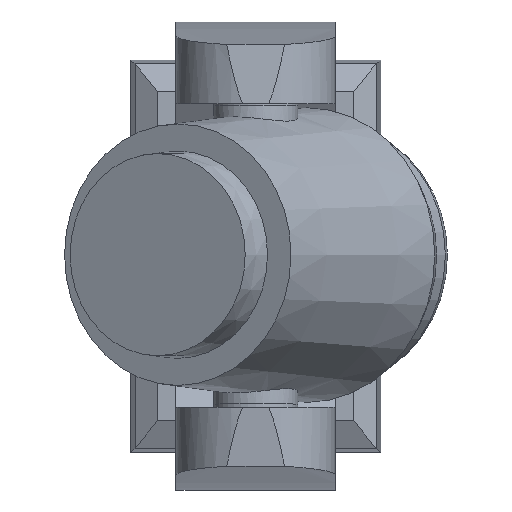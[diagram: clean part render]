
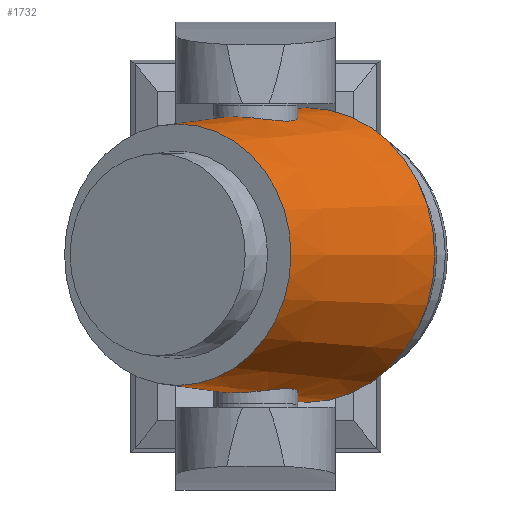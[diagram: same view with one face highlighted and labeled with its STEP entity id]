
A CAD part, top view. The second image highlights one B-rep face of the part: STEP entity #1732.
In plain terms, the highlighted conical face has half-angle 3.64 degrees and reference radius 77.163 mm.
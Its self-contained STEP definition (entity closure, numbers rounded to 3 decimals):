
#20=CONICAL_SURFACE('',#1938,77.163,0.064);
#34=B_SPLINE_CURVE_WITH_KNOTS('',3,(#2789,#2790,#2791,#2792,#2793,#2794,
#2795,#2796,#2797,#2798,#2799,#2800,#2801,#2802,#2803,#2804,#2805,#2806,
#2807,#2808,#2809,#2810,#2811,#2812,#2813,#2814,#2815,#2816,#2817,#2818,
#2819,#2820,#2821,#2822,#2823,#2824,#2825,#2826,#2827,#2828,#2829,#2830,
#2831,#2832,#2833),.UNSPECIFIED.,.T.,.F.,(1,1,1,1,1,1,1,1,1,1,1,1,1,1,1,
1,1,1,1,1,1,1,1,1,1,1,1,1,1,1,1,1,1,1,1,1,1,1,1,1,1,1,1,1,1,1,1,1,1),(-0.015,
-0.01,-0.005,0.,0.005,0.007,
0.01,0.015,0.02,0.025,
0.027,0.03,0.032,0.034,
0.039,0.044,0.049,0.052,
0.054,0.057,0.059,0.064,
0.069,0.074,0.076,0.079,
0.084,0.089,0.091,0.093,
0.098,0.103,0.106,0.108,
0.113,0.118,0.123,0.128,
0.133,0.135,0.138,0.14,
0.143,0.148,0.152,0.157,
0.162,0.165,0.167),.UNSPECIFIED.);
#35=B_SPLINE_CURVE_WITH_KNOTS('',3,(#2835,#2836,#2837,#2838,#2839,#2840,
#2841,#2842,#2843,#2844,#2845,#2846,#2847,#2848,#2849,#2850,#2851,#2852,
#2853,#2854,#2855,#2856,#2857,#2858,#2859,#2860,#2861,#2862,#2863,#2864,
#2865,#2866,#2867,#2868,#2869,#2870,#2871,#2872,#2873,#2874,#2875,#2876,
#2877,#2878,#2879),.UNSPECIFIED.,.T.,.F.,(1,1,1,1,1,1,1,1,1,1,1,1,1,1,1,
1,1,1,1,1,1,1,1,1,1,1,1,1,1,1,1,1,1,1,1,1,1,1,1,1,1,1,1,1,1,1,1,1,1),(-0.015,
-0.01,-0.005,0.,0.005,
0.007,0.01,0.015,0.02,
0.025,0.027,0.03,0.032,
0.034,0.039,0.044,0.049,
0.052,0.054,0.057,0.059,
0.064,0.069,0.074,0.079,
0.081,0.084,0.089,0.093,
0.098,0.101,0.103,0.106,
0.108,0.113,0.118,0.123,
0.128,0.133,0.135,0.138,
0.14,0.143,0.148,0.152,
0.157,0.162,0.165,0.167),
 .UNSPECIFIED.);
#128=CIRCLE('',#1937,77.163);
#129=CIRCLE('',#1939,86.891);
#342=ORIENTED_EDGE('',*,*,#696,.T.);
#343=ORIENTED_EDGE('',*,*,#697,.T.);
#344=ORIENTED_EDGE('',*,*,#698,.F.);
#345=ORIENTED_EDGE('',*,*,#695,.T.);
#695=EDGE_CURVE('',#892,#892,#128,.T.);
#696=EDGE_CURVE('',#893,#893,#34,.T.);
#697=EDGE_CURVE('',#894,#894,#35,.T.);
#698=EDGE_CURVE('',#895,#895,#129,.T.);
#892=VERTEX_POINT('',#2787);
#893=VERTEX_POINT('',#2834);
#894=VERTEX_POINT('',#2880);
#895=VERTEX_POINT('',#2882);
#1370=EDGE_LOOP('',(#342));
#1371=EDGE_LOOP('',(#343));
#1372=EDGE_LOOP('',(#344));
#1373=EDGE_LOOP('',(#345));
#1522=FACE_BOUND('',#1370,.T.);
#1523=FACE_BOUND('',#1371,.T.);
#1524=FACE_BOUND('',#1372,.T.);
#1525=FACE_BOUND('',#1373,.T.);
#1732=ADVANCED_FACE('',(#1522,#1523,#1524,#1525),#20,.T.);
#1937=AXIS2_PLACEMENT_3D('',#2786,#2253,#2254);
#1938=AXIS2_PLACEMENT_3D('',#2788,#2255,#2256);
#1939=AXIS2_PLACEMENT_3D('',#2881,#2257,#2258);
#2253=DIRECTION('',(0.,0.,-1.));
#2254=DIRECTION('',(-1.,0.,0.));
#2255=DIRECTION('',(0.,0.,-1.));
#2256=DIRECTION('',(-1.,0.,0.));
#2257=DIRECTION('',(0.,0.,-1.));
#2258=DIRECTION('',(-1.,0.,0.));
#2786=CARTESIAN_POINT('',(0.,0.,142.942));
#2787=CARTESIAN_POINT('',(-77.163,0.,142.942));
#2788=CARTESIAN_POINT('',(0.,0.,142.942));
#2789=CARTESIAN_POINT('',(-14.79,-83.034,30.646));
#2790=CARTESIAN_POINT('',(-18.433,-82.081,33.88));
#2791=CARTESIAN_POINT('',(-20.893,-81.262,37.107));
#2792=CARTESIAN_POINT('',(-22.458,-80.652,39.926));
#2793=CARTESIAN_POINT('',(-23.763,-80.078,42.94));
#2794=CARTESIAN_POINT('',(-24.815,-79.495,46.845));
#2795=CARTESIAN_POINT('',(-25.149,-79.056,51.831));
#2796=CARTESIAN_POINT('',(-24.615,-78.955,55.888));
#2797=CARTESIAN_POINT('',(-23.698,-79.022,59.093));
#2798=CARTESIAN_POINT('',(-22.788,-79.139,61.378));
#2799=CARTESIAN_POINT('',(-21.663,-79.312,63.562));
#2800=CARTESIAN_POINT('',(-19.856,-79.607,66.346));
#2801=CARTESIAN_POINT('',(-17.159,-80.051,69.403));
#2802=CARTESIAN_POINT('',(-13.199,-80.613,72.421));
#2803=CARTESIAN_POINT('',(-9.539,-81.002,74.212));
#2804=CARTESIAN_POINT('',(-6.369,-81.235,75.218));
#2805=CARTESIAN_POINT('',(-3.963,-81.355,75.724));
#2806=CARTESIAN_POINT('',(-1.523,-81.421,75.995));
#2807=CARTESIAN_POINT('',(1.806,-81.43,76.031));
#2808=CARTESIAN_POINT('',(5.871,-81.292,75.469));
#2809=CARTESIAN_POINT('',(10.588,-80.912,73.826));
#2810=CARTESIAN_POINT('',(14.1,-80.485,71.759));
#2811=CARTESIAN_POINT('',(16.678,-80.114,69.678));
#2812=CARTESIAN_POINT('',(19.001,-79.751,67.39));
#2813=CARTESIAN_POINT('',(21.487,-79.335,64.096));
#2814=CARTESIAN_POINT('',(23.274,-79.064,60.381));
#2815=CARTESIAN_POINT('',(24.25,-78.977,57.244));
#2816=CARTESIAN_POINT('',(24.918,-78.986,53.978));
#2817=CARTESIAN_POINT('',(25.138,-79.189,49.896));
#2818=CARTESIAN_POINT('',(24.544,-79.651,45.782));
#2819=CARTESIAN_POINT('',(23.617,-80.136,42.68));
#2820=CARTESIAN_POINT('',(22.378,-80.695,39.647));
#2821=CARTESIAN_POINT('',(20.321,-81.479,36.169));
#2822=CARTESIAN_POINT('',(17.058,-82.47,32.511));
#2823=CARTESIAN_POINT('',(13.208,-83.371,29.587));
#2824=CARTESIAN_POINT('',(8.753,-84.102,27.411));
#2825=CARTESIAN_POINT('',(4.815,-84.47,26.371));
#2826=CARTESIAN_POINT('',(1.501,-84.602,26.004));
#2827=CARTESIAN_POINT('',(-0.959,-84.611,25.979));
#2828=CARTESIAN_POINT('',(-3.408,-84.534,26.192));
#2829=CARTESIAN_POINT('',(-6.677,-84.315,26.809));
#2830=CARTESIAN_POINT('',(-10.531,-83.848,28.151));
#2831=CARTESIAN_POINT('',(-14.79,-83.034,30.646));
#2832=CARTESIAN_POINT('',(-18.433,-82.081,33.88));
#2833=CARTESIAN_POINT('',(-20.893,-81.262,37.107));
#2834=CARTESIAN_POINT('',(-18.318,-82.076,33.987));
#2835=CARTESIAN_POINT('',(-21.384,81.099,37.745));
#2836=CARTESIAN_POINT('',(-18.434,82.081,33.882));
#2837=CARTESIAN_POINT('',(-15.394,82.875,31.186));
#2838=CARTESIAN_POINT('',(-12.688,83.436,29.413));
#2839=CARTESIAN_POINT('',(-9.768,83.94,27.886));
#2840=CARTESIAN_POINT('',(-5.934,84.406,26.548));
#2841=CARTESIAN_POINT('',(-0.973,84.656,25.855));
#2842=CARTESIAN_POINT('',(3.119,84.567,26.099));
#2843=CARTESIAN_POINT('',(6.371,84.325,26.783));
#2844=CARTESIAN_POINT('',(8.703,84.068,27.522));
#2845=CARTESIAN_POINT('',(10.953,83.742,28.482));
#2846=CARTESIAN_POINT('',(13.838,83.223,30.067));
#2847=CARTESIAN_POINT('',(17.05,82.473,32.502));
#2848=CARTESIAN_POINT('',(20.316,81.48,36.163));
#2849=CARTESIAN_POINT('',(22.367,80.699,39.627));
#2850=CARTESIAN_POINT('',(23.612,80.139,42.664));
#2851=CARTESIAN_POINT('',(24.307,79.775,44.991));
#2852=CARTESIAN_POINT('',(24.778,79.47,47.383));
#2853=CARTESIAN_POINT('',(25.093,79.151,50.684));
#2854=CARTESIAN_POINT('',(24.879,78.946,54.773));
#2855=CARTESIAN_POINT('',(23.639,79.009,59.626));
#2856=CARTESIAN_POINT('',(21.506,79.332,64.063));
#2857=CARTESIAN_POINT('',(19.011,79.75,67.378));
#2858=CARTESIAN_POINT('',(16.694,80.111,69.664));
#2859=CARTESIAN_POINT('',(14.119,80.483,71.746));
#2860=CARTESIAN_POINT('',(10.608,80.91,73.817));
#2861=CARTESIAN_POINT('',(5.889,81.291,75.464));
#2862=CARTESIAN_POINT('',(1.84,81.429,76.028));
#2863=CARTESIAN_POINT('',(-1.492,81.421,75.997));
#2864=CARTESIAN_POINT('',(-3.945,81.356,75.727));
#2865=CARTESIAN_POINT('',(-6.347,81.236,75.223));
#2866=CARTESIAN_POINT('',(-9.508,81.005,74.224));
#2867=CARTESIAN_POINT('',(-13.191,80.614,72.428));
#2868=CARTESIAN_POINT('',(-17.145,80.053,69.416));
#2869=CARTESIAN_POINT('',(-20.387,79.52,65.747));
#2870=CARTESIAN_POINT('',(-22.897,79.11,61.436));
#2871=CARTESIAN_POINT('',(-24.225,78.965,57.555));
#2872=CARTESIAN_POINT('',(-24.825,78.995,54.281));
#2873=CARTESIAN_POINT('',(-25.026,79.095,51.834));
#2874=CARTESIAN_POINT('',(-24.988,79.271,49.375));
#2875=CARTESIAN_POINT('',(-24.608,79.61,46.081));
#2876=CARTESIAN_POINT('',(-23.554,80.195,42.159));
#2877=CARTESIAN_POINT('',(-21.384,81.099,37.745));
#2878=CARTESIAN_POINT('',(-18.434,82.081,33.882));
#2879=CARTESIAN_POINT('',(-15.394,82.875,31.186));
#2880=CARTESIAN_POINT('',(-18.318,82.076,33.987));
#2881=CARTESIAN_POINT('',(0.,0.,-9.952));
#2882=CARTESIAN_POINT('',(-86.891,0.,-9.952));
